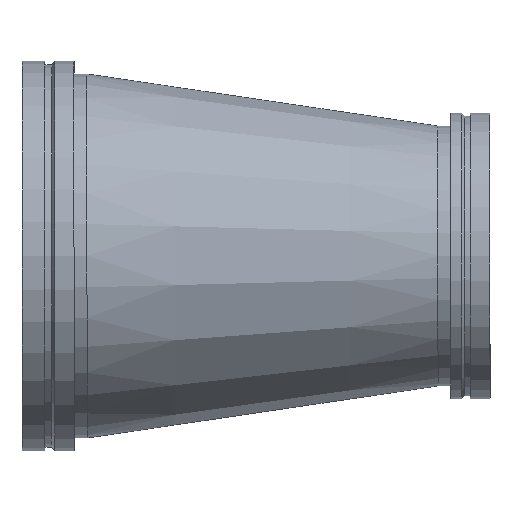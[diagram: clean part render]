
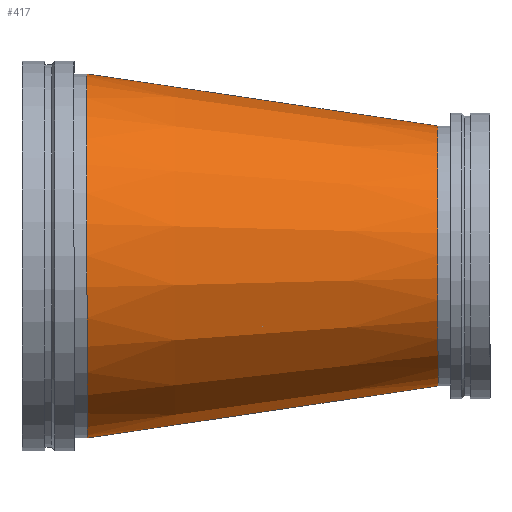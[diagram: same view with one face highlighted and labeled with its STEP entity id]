
A CAD part, top view. The second image highlights one B-rep face of the part: STEP entity #417.
In plain terms, the highlighted conical face has half-angle 8.427 degrees and reference radius 304.8 mm.
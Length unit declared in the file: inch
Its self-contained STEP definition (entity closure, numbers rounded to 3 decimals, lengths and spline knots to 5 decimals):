
#46=CONICAL_SURFACE('',#475,12.,0.147);
#54=LINE('',#739,#68);
#68=VECTOR('',#587,12.);
#101=FACE_OUTER_BOUND('',#124,.T.);
#124=EDGE_LOOP('',(#315,#316,#317,#318,#319,#320));
#155=CIRCLE('',#473,14.);
#156=CIRCLE('',#474,14.);
#157=CIRCLE('',#476,10.);
#158=CIRCLE('',#477,10.);
#195=VERTEX_POINT('',#729);
#196=VERTEX_POINT('',#730);
#197=VERTEX_POINT('',#735);
#198=VERTEX_POINT('',#736);
#239=EDGE_CURVE('',#195,#196,#155,.T.);
#240=EDGE_CURVE('',#196,#195,#156,.T.);
#242=EDGE_CURVE('',#197,#198,#157,.T.);
#243=EDGE_CURVE('',#198,#197,#158,.T.);
#244=EDGE_CURVE('',#198,#196,#54,.T.);
#315=ORIENTED_EDGE('',*,*,#242,.F.);
#316=ORIENTED_EDGE('',*,*,#243,.F.);
#317=ORIENTED_EDGE('',*,*,#244,.T.);
#318=ORIENTED_EDGE('',*,*,#240,.T.);
#319=ORIENTED_EDGE('',*,*,#239,.T.);
#320=ORIENTED_EDGE('',*,*,#244,.F.);
#417=ADVANCED_FACE('',(#101),#46,.T.);
#473=AXIS2_PLACEMENT_3D('',#731,#576,#577);
#474=AXIS2_PLACEMENT_3D('',#732,#578,#579);
#475=AXIS2_PLACEMENT_3D('',#734,#581,#582);
#476=AXIS2_PLACEMENT_3D('',#737,#583,#584);
#477=AXIS2_PLACEMENT_3D('',#738,#585,#586);
#576=DIRECTION('center_axis',(1.,0.,0.));
#577=DIRECTION('ref_axis',(0.,0.,-1.));
#578=DIRECTION('center_axis',(1.,0.,0.));
#579=DIRECTION('ref_axis',(0.,0.,-1.));
#581=DIRECTION('center_axis',(-1.,0.,0.));
#582=DIRECTION('ref_axis',(0.,1.,0.));
#583=DIRECTION('center_axis',(1.,0.,0.));
#584=DIRECTION('ref_axis',(0.,0.,-1.));
#585=DIRECTION('center_axis',(1.,0.,0.));
#586=DIRECTION('ref_axis',(0.,0.,-1.));
#587=DIRECTION('',(-0.989,-0.147,0.));
#729=CARTESIAN_POINT('',(5.,14.,0.));
#730=CARTESIAN_POINT('',(5.,-14.,0.));
#731=CARTESIAN_POINT('Origin',(5.,0.,0.));
#732=CARTESIAN_POINT('Origin',(5.,0.,0.));
#734=CARTESIAN_POINT('Origin',(18.5,0.,0.));
#735=CARTESIAN_POINT('',(32.,10.,0.));
#736=CARTESIAN_POINT('',(32.,-10.,0.));
#737=CARTESIAN_POINT('Origin',(32.,0.,0.));
#738=CARTESIAN_POINT('Origin',(32.,0.,0.));
#739=CARTESIAN_POINT('',(18.5,-12.,0.));
